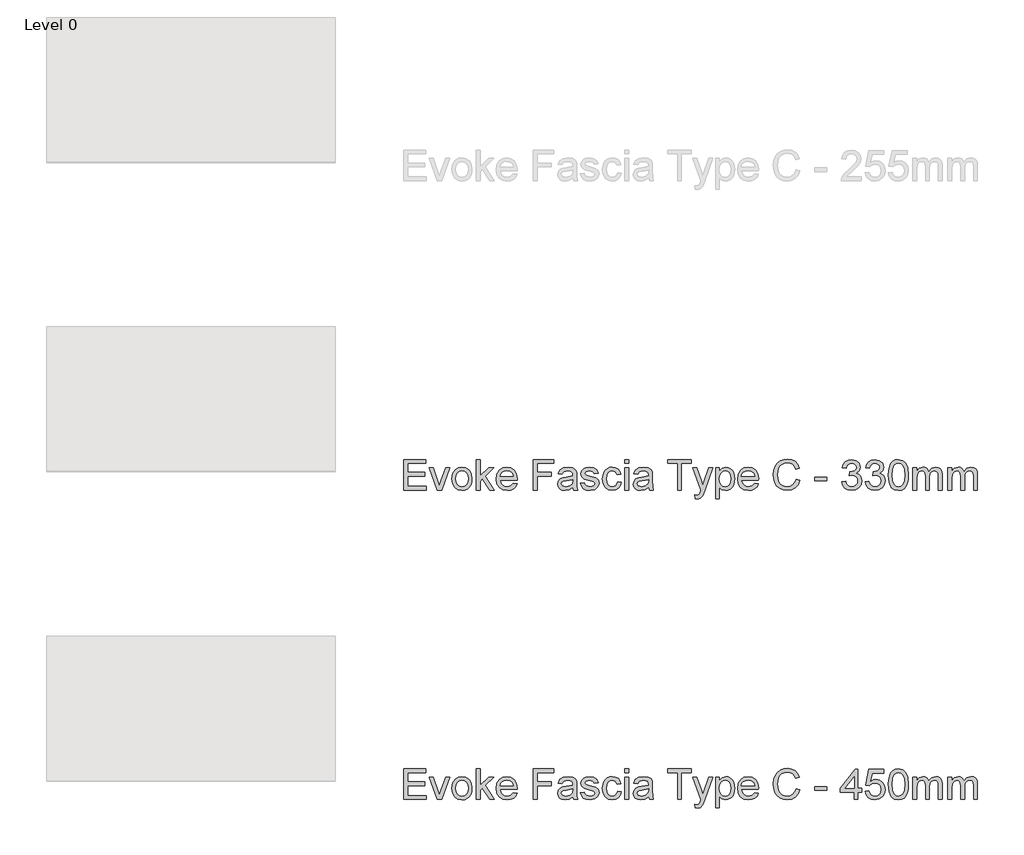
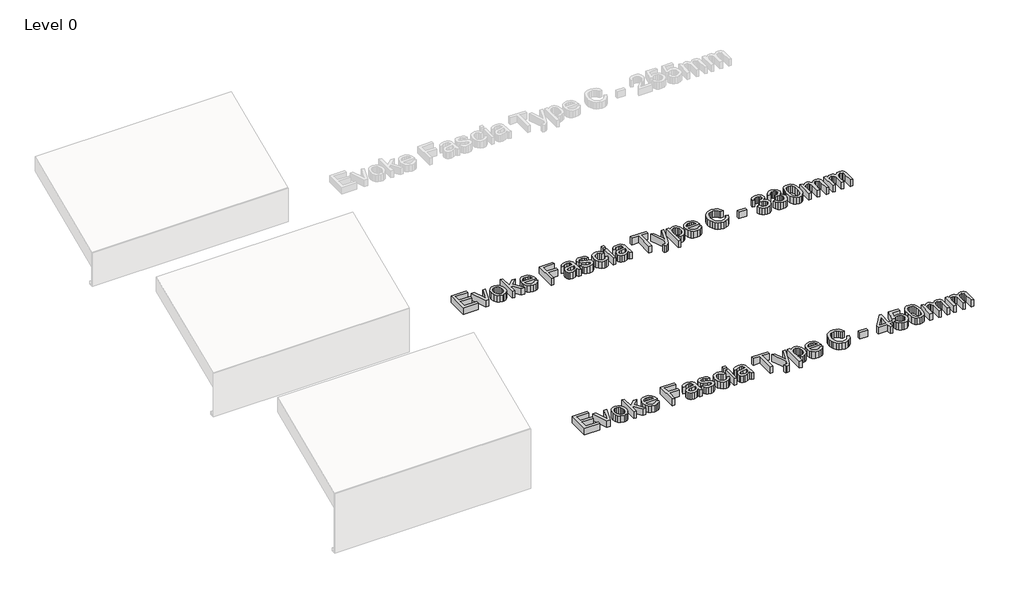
# One storey, part 11 of 13: 2 proxies.
"""IFC4 building model written with IfcOpenShell, lengths in millimetres."""

import ifcopenshell
import ifcopenshell.guid

model = None  # the IFC model being written
_history = None  # IfcOwnerHistory: only IFC2X3 demands one
_inside = {}  # id of a spatial element -> (the spatial element, [elements in it])
_under = {}  # id of a project, library or spatial element -> (it, [spatial elements below it])
_declared = {}  # id of a project -> (the project, [libraries it declares])
_typed = {}  # id of a type object -> (the type object, [elements of that type])
_made_of = {}  # id of a material, layer set ... -> (it, [elements and type objects made of it])


def new_model(schema):
    """Start an empty IFC model of exactly this schema.

    Asked for "IFC4X3", IfcOpenShell would pick the latest addendum, in which some entities
    have other attributes; the version numbers below select the first issue.
    IFC2X3 requires an IfcOwnerHistory on every rooted entity: one is made here for all.
    """
    global model, _history
    if schema == "IFC4X3":
        model = ifcopenshell.file(schema_version=(4, 3, 0, 0))
    else:
        model = ifcopenshell.file(schema=schema)
    _inside.clear()
    _under.clear()
    _declared.clear()
    _typed.clear()
    _made_of.clear()
    _history = None
    if model.schema == "IFC2X3":
        org = make("IfcOrganization", Name="unknown")
        user = make(
            "IfcPersonAndOrganization",
            ThePerson=make("IfcPerson", FamilyName="unknown"),
            TheOrganization=org,
        )
        app = make(
            "IfcApplication",
            ApplicationDeveloper=org,
            Version="unknown",
            ApplicationFullName="unknown",
            ApplicationIdentifier="unknown",
        )
        _history = make(
            "IfcOwnerHistory",
            OwningUser=user,
            OwningApplication=app,
            ChangeAction="ADDED",
            CreationDate=0,
        )
    return model


def make(cls, **values):
    """One entity of the class cls with the attributes given. An attribute that is None is left unset."""
    return model.create_entity(
        cls, **{name: value for name, value in values.items() if value is not None}
    )


def rooted(cls, **values):
    """An entity with a GlobalId (a new one), such as an element, a storey or a relation."""
    return make(cls, GlobalId=ifcopenshell.guid.new(), OwnerHistory=_history, **values)


def si_unit(unit_type, name, prefix=None):
    """IfcSIUnit, for example si_unit("LENGTHUNIT", "METRE", prefix="MILLI")."""
    return make("IfcSIUnit", UnitType=unit_type, Prefix=prefix, Name=name)


def assignment(units):
    """IfcUnitAssignment: the units of a project."""
    return None if units is None else make("IfcUnitAssignment", Units=units)


def point(xyz):
    """IfcCartesianPoint."""
    return None if xyz is None else make("IfcCartesianPoint", Coordinates=xyz)


def direction(xyz):
    """IfcDirection."""
    return None if xyz is None else make("IfcDirection", DirectionRatios=xyz)


def frame(location, z_axis=None, x_axis=None):
    """IfcAxis2Placement3D, a coordinate frame: its origin and axes. An axis left out is left unset."""
    return make(
        "IfcAxis2Placement3D",
        Location=point(location),
        Axis=direction(z_axis),
        RefDirection=direction(x_axis),
    )


def origin():
    """The frame at (0, 0, 0) with its axes left unset."""
    return frame((0.0, 0.0, 0.0))


def origin_with_axes():
    """The frame at (0, 0, 0) with the z axis (0, 0, 1) and the x axis (1, 0, 0) written out."""
    return frame((0.0, 0.0, 0.0), z_axis=(0.0, 0.0, 1.0), x_axis=(1.0, 0.0, 0.0))


def place(relative_to, where):
    """IfcLocalPlacement: puts the frame where relative to a parent placement (None: the world)."""
    return make(
        "IfcLocalPlacement", PlacementRelTo=relative_to, RelativePlacement=where
    )


def context(
    kind, dimensions, precision=None, world=None, true_north=None, identifier=None
):
    """IfcGeometricRepresentationContext, for example the 3D "Model" context."""
    return make(
        "IfcGeometricRepresentationContext",
        ContextIdentifier=identifier,
        ContextType=kind,
        CoordinateSpaceDimension=dimensions,
        Precision=precision,
        WorldCoordinateSystem=world,
        TrueNorth=true_north,
    )


def project(units=None, contexts=None):
    """IfcProject with its units and contexts."""
    return rooted(
        "IfcProject",
        Name="project",
        RepresentationContexts=contexts,
        UnitsInContext=assignment(units),
    )


def spatial(cls, under=None, at=None, **own):
    """A site, building, storey or space (cls), placed at a placement, below another one or the project."""
    s = rooted(cls, ObjectPlacement=at, **own)
    if under is not None:
        _under.setdefault(under.id(), (under, []))[1].append(s)
    return s


def polyline(points):
    """IfcPolyline through the points."""
    return make("IfcPolyline", Points=[point(p) for p in points])


def outline(outer, holes=None, kind="AREA"):
    """IfcArbitraryClosedProfileDef: a profile drawn as a closed curve; with holes, ...WithVoids."""
    if holes is None:
        return make("IfcArbitraryClosedProfileDef", ProfileType=kind, OuterCurve=outer)
    return make(
        "IfcArbitraryProfileDefWithVoids",
        ProfileType=kind,
        OuterCurve=outer,
        InnerCurves=holes,
    )


def extrude(swept, where, along, depth):
    """IfcExtrudedAreaSolid: the profile swept, set in the frame where, extruded along a direction by depth."""
    return make(
        "IfcExtrudedAreaSolid",
        SweptArea=swept,
        Position=where,
        ExtrudedDirection=direction(along),
        Depth=depth,
    )


def shape(context_of_items, identifier, shape_type, items):
    """IfcShapeRepresentation: the items that make up one representation, for example the "Body"."""
    return make(
        "IfcShapeRepresentation",
        ContextOfItems=context_of_items,
        RepresentationIdentifier=identifier,
        RepresentationType=shape_type,
        Items=items,
    )


def made_of(thing, what):
    """Note that an element or type object is made of a material, layer set ...; save() writes the relation."""
    if what is not None:
        _made_of.setdefault(what.id(), (what, []))[1].append(thing)
    return thing


def element(
    cls,
    number,
    at=None,
    inside=None,
    cuts=None,
    type_object=None,
    material=None,
    context=None,
    identifier="Body",
    shape_type=None,
    held_by="IfcProductDefinitionShape",
    body=None,
    shapes=None,
    **own,
):
    """One element of the class cls, such as IfcWall. Its Tag is "e" and its number.

    at: its placement. inside: the storey or other place that contains it. cuts: it is an
    opening in that element (IfcRelVoidsElement). A single representation is given by context,
    identifier, shape_type and body (its items); several are given by shapes. held_by: the class
    of the entity that holds the representations. save() writes the other relations.
    """
    e = rooted(cls, Tag="e%d" % number, ObjectPlacement=at, **own)
    if body is not None:
        shapes = [shape(context, identifier, shape_type, body)]
    if shapes is not None:
        e.Representation = make(held_by, Representations=shapes)
    if inside is not None:
        _inside.setdefault(inside.id(), (inside, []))[1].append(e)
    if cuts is not None:
        rooted(
            "IfcRelVoidsElement", RelatingBuildingElement=cuts, RelatedOpeningElement=e
        )
    if type_object is not None:
        _typed.setdefault(type_object.id(), (type_object, []))[1].append(e)
    return made_of(e, material)


def aggregate(whole, parts):
    """IfcRelAggregates: a whole, such as a stair, and the parts it consists of."""
    return rooted("IfcRelAggregates", RelatingObject=whole, RelatedObjects=parts)


def save(model, path):
    """Write the relations noted so far, then the file.

    IfcRelAggregates (storeys below a building ...), IfcRelContainedInSpatialStructure (elements
    in a storey), IfcRelDefinesByType, IfcRelAssociatesMaterial and IfcRelDeclares: one each for
    every whole, place, type object, material and project.
    """
    for whole, parts in _under.values():
        aggregate(whole, parts)
    for where, things in _inside.values():
        rooted(
            "IfcRelContainedInSpatialStructure",
            RelatedElements=things,
            RelatingStructure=where,
        )
    for kind, things in _typed.values():
        rooted("IfcRelDefinesByType", RelatedObjects=things, RelatingType=kind)
    for what, things in _made_of.values():
        rooted("IfcRelAssociatesMaterial", RelatedObjects=things, RelatingMaterial=what)
    for by, libraries in _declared.values():
        rooted("IfcRelDeclares", RelatingContext=by, RelatedDefinitions=libraries)
    model.write(path)


model = new_model("IFC4")

# Units and contexts
model_context = context("Model", 3, world=origin())
ifc_project = project(units=[si_unit("LENGTHUNIT", "METRE", prefix="MILLI")], contexts=[model_context])

# Site, building, storey
site = spatial("IfcSite", under=ifc_project)
building = spatial("IfcBuilding", under=site)
storey = spatial("IfcBuildingStorey", under=building, Name="Level 0", Elevation=0.0)

# Proxies
placement = place(None, origin())
element("IfcBuildingElementProxy", 1, Name="150mm Arial", ObjectType="150mm Arial", at=placement, inside=storey, context=model_context, shape_type="SweptSolid", body=[
    extrude(outline(polyline([(12568.7201043, 2860.6682311), (12568.7201043, 3008.3605388), (12674.8739504, 3008.3605388), (12674.8739504, 2989.8990003), (12587.1816427, 2989.8990003), (12587.1816427, 2946.0528465), (12670.2585658, 2946.0528465), (12670.2585658, 2927.591308), (12587.1816427, 2927.591308), (12587.1816427, 2879.1297695), (12677.1816427, 2879.1297695), (12677.1816427, 2860.6682311), (12568.7201043, 2860.6682311)])), origin_with_axes(), (0.0, 0.0, 1.0), 50.0),
    extrude(outline(polyline([(12729.176835, 2860.6682311), (12691.0277966, 2969.1297695), (12710.5710658, 2969.1297695), (12733.6840466, 2904.153808), (12740.6431812, 2882.3028465), (12747.458085, 2902.9278465), (12770.7152966, 2969.1297695), (12790.2585658, 2969.1297695), (12752.5782774, 2860.6682311), (12729.176835, 2860.6682311)])), origin_with_axes(), (0.0, 0.0, 1.0), 50.0),
    extrude(outline(polyline([(12801.7970274, 2914.8990003), (12805.7904168, 2941.0498416), (12817.770585, 2959.4302503), (12832.5722677, 2968.435659), (12850.2946235, 2971.4374618), (12869.6891548, 2967.7821133), (12885.1804408, 2956.8160676), (12895.3351884, 2939.4047094), (12898.7201043, 2916.4134234), (12897.22371, 2897.762582), (12892.7345274, 2883.5648657), (12885.3832653, 2872.9323537), (12875.3006331, 2864.9771253), (12863.3249721, 2860.0146854), (12850.2946235, 2858.3605388), (12830.6657173, 2862.0023657), (12815.19246, 2872.9278465), (12805.1458855, 2890.7042888), (12801.7970274, 2914.8990003)]), holes=[polyline([(12820.2585658, 2914.935058), (12822.3949841, 2898.2268248), (12828.8042389, 2886.3232791), (12838.4496716, 2879.1973777), (12850.2946235, 2876.8220772), (12862.0854889, 2879.2108993), (12871.7128927, 2886.3773657), (12878.1221475, 2898.4386638), (12880.2585658, 2915.5119811), (12878.1086259, 2931.7334354), (12871.6588062, 2943.4747215), (12862.0178807, 2950.6006229), (12850.2946235, 2952.9759234), (12838.4496716, 2950.6096373), (12828.8042389, 2943.5107791), (12822.3949841, 2931.6342767), (12820.2585658, 2914.935058)])]), origin_with_axes(), (0.0, 0.0, 1.0), 50.0),
    extrude(outline(polyline([(12919.489335, 2860.6682311), (12919.489335, 3008.3605388), (12937.9508735, 3008.3605388), (12937.9508735, 2928.997558), (12979.3451043, 2969.1297695), (13004.8739504, 2969.1297695), (12962.974912, 2928.4927503), (13007.1816427, 2860.6682311), (12985.6191427, 2860.6682311), (12949.7417389, 2915.6562118), (12937.9508735, 2904.2259234), (12937.9508735, 2860.6682311), (12919.489335, 2860.6682311)])), origin_with_axes(), (0.0, 0.0, 1.0), 50.0),
    extrude(outline(polyline([(13099.2729889, 2892.9759234), (13117.3739504, 2890.6682311), (13110.8520153, 2877.029409), (13100.4448639, 2866.8340965), (13086.3868711, 2860.4789282), (13068.912412, 2858.3605388), (13047.2507533, 2862.0158873), (13030.583085, 2872.981933), (13019.9550802, 2890.5465364), (13016.412412, 2913.997558), (13019.9911379, 2938.2373416), (13030.7273158, 2956.3653465), (13047.1696235, 2967.669433), (13067.8667389, 2971.4374618), (13087.919323, 2967.6784474), (13103.94246, 2956.4014041), (13114.4487701, 2938.309457), (13117.9508735, 2914.1057311), (13117.8427004, 2909.1297695), (13034.8739504, 2909.1297695), (13038.0695634, 2895.310659), (13045.4929408, 2885.1514041), (13056.2065826, 2878.904409), (13069.2729889, 2876.8220772), (13087.3739504, 2880.6802503), (13099.2729889, 2892.9759234)]), holes=[polyline([(13034.8739504, 2927.591308), (13099.489335, 2927.591308), (13096.9923399, 2937.3449138), (13092.0975081, 2944.3220772), (13081.334287, 2950.8124618), (13067.7946235, 2952.9759234), (13055.3502124, 2951.2496614), (13045.0602485, 2946.0708753), (13037.9073038, 2937.9984594), (13034.8739504, 2927.591308)])]), origin_with_axes(), (0.0, 0.0, 1.0), 50.0),
    extrude(outline(polyline([(13196.412412, 2860.6682311), (13196.412412, 3008.3605388), (13295.6431812, 3008.3605388), (13295.6431812, 2989.8990003), (13214.8739504, 2989.8990003), (13214.8739504, 2946.0528465), (13284.1047197, 2946.0528465), (13284.1047197, 2927.591308), (13214.8739504, 2927.591308), (13214.8739504, 2860.6682311), (13196.412412, 2860.6682311)])), origin_with_axes(), (0.0, 0.0, 1.0), 50.0),
    extrude(outline(polyline([(13387.9508735, 2874.5143849), (13370.0482293, 2862.0023657), (13350.270585, 2858.3605388), (13334.8423999, 2860.5510436), (13323.4616908, 2867.122558), (13316.4439624, 2877.1015243), (13314.1047197, 2889.5143849), (13317.6383735, 2904.1177503), (13326.9232293, 2914.7187118), (13339.849912, 2920.7764041), (13355.8234697, 2923.5528465), (13387.8427004, 2929.8990003), (13387.9508735, 2934.0095772), (13386.6798399, 2942.2487599), (13382.8667389, 2947.6393849), (13374.3390947, 2951.6417888), (13362.458085, 2952.9759234), (13343.7802004, 2949.4242407), (13334.8739504, 2936.8220772), (13316.412412, 2939.1297695), (13324.3991908, 2957.1586157), (13340.4809216, 2967.7235195), (13364.8378927, 2971.4374618), (13387.2116908, 2968.1562118), (13399.849912, 2959.9170291), (13405.5109697, 2947.3869811), (13406.412412, 2931.2331349), (13406.412412, 2908.2643849), (13407.349912, 2876.1910676), (13411.0277966, 2860.6682311), (13392.5662581, 2860.6682311), (13387.9508735, 2874.5143849)]), holes=[polyline([(13387.9508735, 2911.4374618), (13358.1672197, 2905.7764041), (13342.2838062, 2902.7836157), (13335.0902966, 2897.9158272), (13332.5662581, 2890.8124618), (13338.0650562, 2880.8244811), (13354.2008735, 2876.8220772), (13372.8787581, 2881.2391445), (13384.9220274, 2891.9302503), (13387.8427004, 2906.2090965), (13387.9508735, 2911.4374618)])]), origin_with_axes(), (0.0, 0.0, 1.0), 50.0),
    extrude(outline(polyline([(13424.8739504, 2892.9759234), (13443.3354889, 2895.2836157), (13446.2471475, 2887.3869811), (13451.881162, 2881.5816926), (13471.4604889, 2876.8220772), (13490.2826043, 2881.185058), (13496.412412, 2891.4254426), (13490.2465466, 2899.7187118), (13471.2441427, 2904.9831349), (13443.443662, 2914.0155868), (13431.3102485, 2924.5624618), (13427.1816427, 2939.4542888), (13430.4989504, 2953.2102984), (13439.5494312, 2963.7211157), (13451.28621, 2969.1838561), (13467.1696235, 2971.4374618), (13489.6335658, 2967.8136638), (13503.912412, 2958.0059715), (13510.2585658, 2941.4374618), (13491.7970274, 2939.1297695), (13484.8559216, 2949.3160676), (13468.6119312, 2952.9759234), (13450.943662, 2949.4783272), (13445.6431812, 2941.3292888), (13447.8427004, 2935.9566926), (13454.7297197, 2931.8821734), (13470.631162, 2927.9518849), (13497.7285177, 2919.2619811), (13510.3126524, 2909.4182311), (13514.8739504, 2893.372558), (13509.5193831, 2875.7042888), (13494.068662, 2862.8857791), (13471.208085, 2858.3605388), (13452.5933014, 2860.5420291), (13439.0085658, 2867.0865003), (13429.9400562, 2877.9218368), (13424.8739504, 2892.9759234)])), origin_with_axes(), (0.0, 0.0, 1.0), 50.0),
    extrude(outline(polyline([(13604.8739504, 2899.8990003), (13623.3354889, 2897.591308), (13618.1882533, 2881.1715364), (13608.5157774, 2868.763183), (13595.2285177, 2860.9611998), (13579.2369312, 2858.3605388), (13559.5990105, 2861.9888441), (13544.2429408, 2872.8737599), (13534.3315826, 2890.5375219), (13531.0277966, 2914.5023657), (13536.6708254, 2945.169433), (13543.7922197, 2956.6673296), (13553.8703447, 2964.8749618), (13565.9271355, 2969.7968368), (13578.9845274, 2971.4374618), (13594.5839865, 2969.1838561), (13607.0554408, 2962.4230388), (13616.0022557, 2951.5155868), (13621.0277966, 2936.8220772), (13602.5662581, 2934.5143849), (13594.0025562, 2948.3425099), (13579.1287581, 2952.9759234), (13567.1981692, 2950.6952743), (13557.7285177, 2943.8533272), (13551.5491307, 2932.0804907), (13549.489335, 2915.0071734), (13551.5040586, 2897.7039883), (13557.5482293, 2885.8905868), (13566.8466067, 2879.0892046), (13578.6239504, 2876.8220772), (13588.1837461, 2878.2373416), (13596.021787, 2882.4831349), (13601.7234096, 2889.6676301), (13604.8739504, 2899.8990003)])), origin_with_axes(), (0.0, 0.0, 1.0), 50.0),
    extrude(outline(polyline([(13639.489335, 2989.8990003), (13639.489335, 3008.3605388), (13657.9508735, 3008.3605388), (13657.9508735, 2989.8990003), (13639.489335, 2989.8990003)])), origin_with_axes(), (0.0, 0.0, 1.0), 50.0),
    extrude(outline(polyline([(13639.489335, 2860.6682311), (13639.489335, 2969.1297695), (13657.9508735, 2969.1297695), (13657.9508735, 2860.6682311), (13639.489335, 2860.6682311)])), origin_with_axes(), (0.0, 0.0, 1.0), 50.0),
    extrude(outline(polyline([(13754.8739504, 2874.5143849), (13736.9713062, 2862.0023657), (13717.193662, 2858.3605388), (13701.7654769, 2860.5510436), (13690.3847677, 2867.122558), (13683.3670394, 2877.1015243), (13681.0277966, 2889.5143849), (13684.5614504, 2904.1177503), (13693.8463062, 2914.7187118), (13706.7729889, 2920.7764041), (13722.7465466, 2923.5528465), (13754.7657774, 2929.8990003), (13754.8739504, 2934.0095772), (13753.6029168, 2942.2487599), (13749.7898158, 2947.6393849), (13741.2621716, 2951.6417888), (13729.381162, 2952.9759234), (13710.7032774, 2949.4242407), (13701.7970274, 2936.8220772), (13683.3354889, 2939.1297695), (13691.3222677, 2957.1586157), (13707.4039985, 2967.7235195), (13731.7609697, 2971.4374618), (13754.1347677, 2968.1562118), (13766.7729889, 2959.9170291), (13772.4340466, 2947.3869811), (13773.3354889, 2931.2331349), (13773.3354889, 2908.2643849), (13774.2729889, 2876.1910676), (13777.9508735, 2860.6682311), (13759.489335, 2860.6682311), (13754.8739504, 2874.5143849)]), holes=[polyline([(13754.8739504, 2911.4374618), (13725.0902966, 2905.7764041), (13709.2068831, 2902.7836157), (13702.0133735, 2897.9158272), (13699.489335, 2890.8124618), (13704.9881331, 2880.8244811), (13721.1239504, 2876.8220772), (13739.801835, 2881.2391445), (13751.8451043, 2891.9302503), (13754.7657774, 2906.2090965), (13754.8739504, 2911.4374618)])]), origin_with_axes(), (0.0, 0.0, 1.0), 50.0),
    extrude(outline(polyline([(13895.6431812, 2860.6682311), (13895.6431812, 2989.8990003), (13847.1816427, 2989.8990003), (13847.1816427, 3008.3605388), (13962.5662581, 3008.3605388), (13962.5662581, 2989.8990003), (13914.1047197, 2989.8990003), (13914.1047197, 2860.6682311), (13895.6431812, 2860.6682311)])), origin_with_axes(), (0.0, 0.0, 1.0), 50.0),
    extrude(outline(polyline([(13981.0277966, 2819.1297695), (13978.7201043, 2836.9062118), (13988.0951043, 2835.2836157), (13996.8571235, 2837.3208753), (14002.2297197, 2842.9999618), (14007.2777966, 2856.5937118), (14008.7201043, 2861.0648657), (13969.489335, 2969.1297695), (13988.9604889, 2969.1297695), (14009.7657774, 2908.9134234), (14017.0133735, 2884.8268849), (14024.2609697, 2906.1009234), (14045.6431812, 2969.1297695), (14064.9701043, 2969.1297695), (14027.2177004, 2858.0720772), (14017.4100081, 2833.9855388), (14006.7008735, 2820.9687118), (13992.3138543, 2816.8220772), (13981.0277966, 2819.1297695)])), origin_with_axes(), (0.0, 0.0, 1.0), 50.0),
    extrude(outline(polyline([(14080.2585658, 2819.1297695), (14080.2585658, 2969.1297695), (14098.7201043, 2969.1297695), (14098.7201043, 2951.028808), (14111.4845274, 2966.3352984), (14128.7201043, 2971.4374618), (14141.2050802, 2969.6526061), (14152.1215466, 2964.2980388), (14161.0097677, 2955.6982791), (14167.4100081, 2944.1778465), (14172.5662581, 2915.7283272), (14171.1104288, 2899.9395652), (14166.7429408, 2885.8184715), (14159.6035177, 2874.0816926), (14149.8318831, 2865.4458753), (14138.451174, 2860.1318729), (14126.4845274, 2858.3605388), (14110.4208254, 2863.1021253), (14098.7201043, 2875.091308), (14098.7201043, 2819.1297695), (14080.2585658, 2819.1297695)]), holes=[polyline([(14098.7201043, 2914.0336157), (14100.716799, 2897.4831349), (14106.7068831, 2885.9086157), (14115.5455249, 2879.0937118), (14126.0878927, 2876.8220772), (14136.8015346, 2879.1748416), (14145.865537, 2886.2331349), (14152.044924, 2898.231332), (14154.1047197, 2915.403808), (14152.0945033, 2931.8641445), (14146.0638543, 2943.6009234), (14137.2387341, 2950.6321734), (14126.8451043, 2952.9759234), (14116.4109096, 2950.4834354), (14107.2477485, 2943.0059715), (14100.8520153, 2930.7779066), (14098.7201043, 2914.0336157)])]), origin_with_axes(), (0.0, 0.0, 1.0), 50.0),
    extrude(outline(polyline([(14269.2729889, 2892.9759234), (14287.3739504, 2890.6682311), (14280.8520153, 2877.029409), (14270.4448639, 2866.8340965), (14256.3868711, 2860.4789282), (14238.912412, 2858.3605388), (14217.2507533, 2862.0158873), (14200.583085, 2872.981933), (14189.9550802, 2890.5465364), (14186.412412, 2913.997558), (14189.9911379, 2938.2373416), (14200.7273158, 2956.3653465), (14217.1696235, 2967.669433), (14237.8667389, 2971.4374618), (14257.919323, 2967.6784474), (14273.94246, 2956.4014041), (14284.4487701, 2938.309457), (14287.9508735, 2914.1057311), (14287.8427004, 2909.1297695), (14204.8739504, 2909.1297695), (14208.0695634, 2895.310659), (14215.4929408, 2885.1514041), (14226.2065826, 2878.904409), (14239.2729889, 2876.8220772), (14257.3739504, 2880.6802503), (14269.2729889, 2892.9759234)]), holes=[polyline([(14204.8739504, 2927.591308), (14269.489335, 2927.591308), (14266.9923399, 2937.3449138), (14262.0975081, 2944.3220772), (14251.334287, 2950.8124618), (14237.7946235, 2952.9759234), (14225.3502124, 2951.2496614), (14215.0602485, 2946.0708753), (14207.9073038, 2937.9984594), (14204.8739504, 2927.591308)])]), origin_with_axes(), (0.0, 0.0, 1.0), 50.0),
    extrude(outline(polyline([(14470.2585658, 2913.1682311), (14488.7201043, 2908.4086157), (14480.2014745, 2886.895695), (14466.833085, 2871.1790484), (14449.2729889, 2861.5651662), (14428.1792389, 2858.3605388), (14406.7654769, 2860.7854186), (14389.7597677, 2868.060058), (14376.724912, 2879.9320532), (14367.22371, 2896.1490003), (14361.4229288, 2915.2145051), (14359.489335, 2935.6321734), (14361.6753326, 2957.1676301), (14368.2333254, 2975.7643849), (14378.8207653, 2990.8319931), (14393.0951043, 3001.7800099), (14410.0241908, 3008.4461758), (14428.5758735, 3010.6682311), (14448.8177605, 3007.7926301), (14465.553037, 2999.1658272), (14478.2588663, 2985.3196734), (14486.412412, 2966.7860195), (14467.9508735, 2962.3869811), (14461.5506331, 2975.8500219), (14452.8066427, 2985.0852984), (14441.6107293, 2990.4263441), (14427.8547197, 2992.2066926), (14411.9983495, 2990.232534), (14398.9725081, 2984.310058), (14389.0881932, 2975.0612599), (14382.6564024, 2963.1081349), (14377.9508735, 2935.6682311), (14383.521787, 2903.8653465), (14390.6431812, 2891.9888441), (14400.865537, 2883.5468368), (14413.1206451, 2878.5032671), (14426.3402966, 2876.8220772), (14441.7504528, 2879.1117407), (14454.5914985, 2885.9807311), (14464.2865105, 2897.356933), (14470.2585658, 2913.1682311)])), origin_with_axes(), (0.0, 0.0, 1.0), 50.0),
    extrude(outline(polyline([(14560.2585658, 2904.5143849), (14560.2585658, 2922.9759234), (14617.9508735, 2922.9759234), (14617.9508735, 2904.5143849), (14560.2585658, 2904.5143849)])), origin_with_axes(), (0.0, 0.0, 1.0), 50.0),
    extrude(outline(polyline([(14691.7970274, 2899.8990003), (14710.2585658, 2902.2066926), (14714.3916788, 2890.6051301), (14720.4448639, 2882.7715965), (14728.7155971, 2878.309457), (14739.5013543, 2876.8220772), (14752.1576043, 2878.8683513), (14761.9292389, 2885.0071734), (14768.1762341, 2894.1658272), (14770.2585658, 2905.2715965), (14768.1942629, 2915.8139642), (14762.0013543, 2924.3641445), (14752.6263543, 2930.0297094), (14741.0157774, 2931.9182311), (14728.0710658, 2929.8990003), (14730.1263543, 2948.3605388), (14733.083085, 2948.1441926), (14754.0326043, 2953.4446734), (14761.0097677, 2960.169433), (14763.3354889, 2969.7427503), (14761.6497918, 2977.7160075), (14756.5927004, 2984.1838561), (14748.8763543, 2988.4702142), (14739.2128927, 2989.8990003), (14729.5314024, 2988.4566926), (14721.6167389, 2984.1297695), (14715.8384937, 2976.9182311), (14712.5662581, 2966.8220772), (14694.1047197, 2969.1297695), (14699.5404168, 2985.7072936), (14709.2128927, 2998.0840965), (14722.4460658, 3005.7914282), (14738.5638543, 3008.3605388), (14760.8294793, 3003.294433), (14776.4064024, 2989.4482791), (14781.7970274, 2970.8244811), (14776.676835, 2953.8052503), (14761.5326043, 2941.5816926), (14773.0890947, 2936.9122215), (14781.6527966, 2928.9615003), (14786.9532774, 2918.1622215), (14788.7201043, 2904.9470772), (14785.1864504, 2886.9542888), (14774.5854889, 2871.9182311), (14758.5848879, 2861.7499618), (14738.8523158, 2858.3605388), (14721.0037581, 2861.2541686), (14706.4725081, 2869.935058), (14696.3673399, 2883.2133032), (14691.7970274, 2899.8990003)])), origin_with_axes(), (0.0, 0.0, 1.0), 50.0),
    extrude(outline(polyline([(14804.8739504, 2899.8990003), (14823.3354889, 2902.2066926), (14827.4686019, 2890.6051301), (14833.521787, 2882.7715965), (14841.7925201, 2878.309457), (14852.5782774, 2876.8220772), (14865.2345274, 2878.8683513), (14875.006162, 2885.0071734), (14881.2531572, 2894.1658272), (14883.3354889, 2905.2715965), (14881.271186, 2915.8139642), (14875.0782774, 2924.3641445), (14865.7032774, 2930.0297094), (14854.0927004, 2931.9182311), (14841.1479889, 2929.8990003), (14843.2032774, 2948.3605388), (14846.1600081, 2948.1441926), (14867.1095274, 2953.4446734), (14874.0866908, 2960.169433), (14876.412412, 2969.7427503), (14874.7267149, 2977.7160075), (14869.6696235, 2984.1838561), (14861.9532774, 2988.4702142), (14852.2898158, 2989.8990003), (14842.6083254, 2988.4566926), (14834.693662, 2984.1297695), (14828.9154168, 2976.9182311), (14825.6431812, 2966.8220772), (14807.1816427, 2969.1297695), (14812.6173399, 2985.7072936), (14822.2898158, 2998.0840965), (14835.5229889, 3005.7914282), (14851.6407774, 3008.3605388), (14873.9064024, 3003.294433), (14889.4833254, 2989.4482791), (14894.8739504, 2970.8244811), (14889.7537581, 2953.8052503), (14874.6095274, 2941.5816926), (14886.1660177, 2936.9122215), (14894.7297197, 2928.9615003), (14900.0302004, 2918.1622215), (14901.7970274, 2904.9470772), (14898.2633735, 2886.9542888), (14887.662412, 2871.9182311), (14871.661811, 2861.7499618), (14851.9292389, 2858.3605388), (14834.0806812, 2861.2541686), (14819.5494312, 2869.935058), (14809.4442629, 2883.2133032), (14804.8739504, 2899.8990003)])), origin_with_axes(), (0.0, 0.0, 1.0), 50.0),
    extrude(outline(polyline([(14917.9508735, 2933.3244811), (14919.3075442, 2956.9648056), (14923.3775562, 2975.8184715), (14930.1203447, 2990.1739402), (14939.4953447, 3000.3196734), (14951.5701644, 3006.3503224), (14966.412412, 3008.3605388), (14987.974912, 3003.6009234), (15002.8667389, 2989.8809715), (15011.520585, 2968.0300099), (15014.8739504, 2933.3244811), (15013.5308014, 2909.8193729), (15009.5013543, 2891.0107791), (15002.7991307, 2876.6417888), (14993.4376524, 2866.4554907), (14981.3357894, 2860.3842767), (14966.412412, 2858.3605388), (14947.2297197, 2861.8761638), (14932.662412, 2872.4230388), (14921.6287581, 2897.4020051), (14917.9508735, 2933.3244811)]), holes=[polyline([(14936.412412, 2933.3605388), (14938.5758735, 2904.3205748), (14945.0662581, 2887.513183), (14954.7297197, 2879.4948537), (14966.412412, 2876.8220772), (14978.0951043, 2879.5038681), (14987.7585658, 2887.5492407), (14994.2489504, 2904.3656469), (14996.412412, 2933.3605388), (14994.3210658, 2961.746957), (14988.0470274, 2978.685058), (14978.4015947, 2987.0955147), (14966.1960658, 2989.8990003), (14954.6395754, 2987.4290484), (14945.3547197, 2980.0191926), (14938.6479889, 2962.0264041), (14936.412412, 2933.3605388)])]), origin_with_axes(), (0.0, 0.0, 1.0), 50.0),
    extrude(outline(polyline([(15035.6431812, 2860.6682311), (15035.6431812, 2969.1297695), (15054.1047197, 2969.1297695), (15054.1047197, 2951.2812118), (15066.7970274, 2965.9026061), (15084.8619312, 2971.4374618), (15095.1293591, 2970.0267046), (15103.3595274, 2965.794433), (15113.5277966, 2949.9831349), (15127.9328447, 2966.0738801), (15146.1239504, 2971.4374618), (15160.0016548, 2969.2063921), (15170.2645754, 2962.513183), (15176.6062221, 2951.177546), (15178.7201043, 2935.0191926), (15178.7201043, 2860.6682311), (15160.2585658, 2860.6682311), (15160.2585658, 2927.0865003), (15158.5458254, 2942.5011638), (15152.3439024, 2950.091308), (15141.7970274, 2952.9759234), (15131.7955249, 2951.1279666), (15123.6419793, 2945.5840965), (15118.2198038, 2935.965707), (15116.412412, 2921.8941926), (15116.412412, 2860.6682311), (15097.9508735, 2860.6682311), (15097.9508735, 2929.1417888), (15093.678037, 2947.0264041), (15088.0395153, 2951.4885436), (15079.6696235, 2952.9759234), (15066.0037581, 2949.0095772), (15056.9172197, 2937.3990003), (15054.1047197, 2915.3677503), (15054.1047197, 2860.6682311), (15035.6431812, 2860.6682311)])), origin_with_axes(), (0.0, 0.0, 1.0), 50.0),
    extrude(outline(polyline([(15206.412412, 2860.6682311), (15206.412412, 2969.1297695), (15224.8739504, 2969.1297695), (15224.8739504, 2951.2812118), (15237.5662581, 2965.9026061), (15255.631162, 2971.4374618), (15265.8985899, 2970.0267046), (15274.1287581, 2965.794433), (15284.2970274, 2949.9831349), (15298.7020754, 2966.0738801), (15316.8931812, 2971.4374618), (15330.7708855, 2969.2063921), (15341.0338062, 2962.513183), (15347.3754528, 2951.177546), (15349.489335, 2935.0191926), (15349.489335, 2860.6682311), (15331.0277966, 2860.6682311), (15331.0277966, 2927.0865003), (15329.3150562, 2942.5011638), (15323.1131331, 2950.091308), (15312.5662581, 2952.9759234), (15302.5647557, 2951.1279666), (15294.41121, 2945.5840965), (15288.9890346, 2935.965707), (15287.1816427, 2921.8941926), (15287.1816427, 2860.6682311), (15268.7201043, 2860.6682311), (15268.7201043, 2929.1417888), (15264.4472677, 2947.0264041), (15258.8087461, 2951.4885436), (15250.4388543, 2952.9759234), (15236.7729889, 2949.0095772), (15227.6864504, 2937.3990003), (15224.8739504, 2915.3677503), (15224.8739504, 2860.6682311), (15206.412412, 2860.6682311)])), origin_with_axes(), (0.0, 0.0, 1.0), 50.0),
])
element("IfcBuildingElementProxy", 2, Name="150mm Arial", ObjectType="150mm Arial", at=placement, inside=storey, context=model_context, shape_type="SweptSolid", body=[
    extrude(outline(polyline([(12568.7201043, 1360.6682311), (12568.7201043, 1508.3605388), (12674.8739504, 1508.3605388), (12674.8739504, 1489.8990003), (12587.1816427, 1489.8990003), (12587.1816427, 1446.0528465), (12670.2585658, 1446.0528465), (12670.2585658, 1427.591308), (12587.1816427, 1427.591308), (12587.1816427, 1379.1297695), (12677.1816427, 1379.1297695), (12677.1816427, 1360.6682311), (12568.7201043, 1360.6682311)])), origin_with_axes(), (0.0, 0.0, 1.0), 50.0),
    extrude(outline(polyline([(12729.176835, 1360.6682311), (12691.0277966, 1469.1297695), (12710.5710658, 1469.1297695), (12733.6840466, 1404.153808), (12740.6431812, 1382.3028465), (12747.458085, 1402.9278465), (12770.7152966, 1469.1297695), (12790.2585658, 1469.1297695), (12752.5782774, 1360.6682311), (12729.176835, 1360.6682311)])), origin_with_axes(), (0.0, 0.0, 1.0), 50.0),
    extrude(outline(polyline([(12801.7970274, 1414.8990003), (12805.7904168, 1441.0498416), (12817.770585, 1459.4302503), (12832.5722677, 1468.435659), (12850.2946235, 1471.4374618), (12869.6891548, 1467.7821133), (12885.1804408, 1456.8160676), (12895.3351884, 1439.4047094), (12898.7201043, 1416.4134234), (12897.22371, 1397.762582), (12892.7345274, 1383.5648657), (12885.3832653, 1372.9323537), (12875.3006331, 1364.9771253), (12863.3249721, 1360.0146854), (12850.2946235, 1358.3605388), (12830.6657173, 1362.0023657), (12815.19246, 1372.9278465), (12805.1458855, 1390.7042888), (12801.7970274, 1414.8990003)]), holes=[polyline([(12820.2585658, 1414.935058), (12822.3949841, 1398.2268248), (12828.8042389, 1386.3232791), (12838.4496716, 1379.1973777), (12850.2946235, 1376.8220772), (12862.0854889, 1379.2108993), (12871.7128927, 1386.3773657), (12878.1221475, 1398.4386638), (12880.2585658, 1415.5119811), (12878.1086259, 1431.7334354), (12871.6588062, 1443.4747215), (12862.0178807, 1450.6006229), (12850.2946235, 1452.9759234), (12838.4496716, 1450.6096373), (12828.8042389, 1443.5107791), (12822.3949841, 1431.6342767), (12820.2585658, 1414.935058)])]), origin_with_axes(), (0.0, 0.0, 1.0), 50.0),
    extrude(outline(polyline([(12919.489335, 1360.6682311), (12919.489335, 1508.3605388), (12937.9508735, 1508.3605388), (12937.9508735, 1428.997558), (12979.3451043, 1469.1297695), (13004.8739504, 1469.1297695), (12962.974912, 1428.4927503), (13007.1816427, 1360.6682311), (12985.6191427, 1360.6682311), (12949.7417389, 1415.6562118), (12937.9508735, 1404.2259234), (12937.9508735, 1360.6682311), (12919.489335, 1360.6682311)])), origin_with_axes(), (0.0, 0.0, 1.0), 50.0),
    extrude(outline(polyline([(13099.2729889, 1392.9759234), (13117.3739504, 1390.6682311), (13110.8520153, 1377.029409), (13100.4448639, 1366.8340965), (13086.3868711, 1360.4789282), (13068.912412, 1358.3605388), (13047.2507533, 1362.0158873), (13030.583085, 1372.981933), (13019.9550802, 1390.5465364), (13016.412412, 1413.997558), (13019.9911379, 1438.2373416), (13030.7273158, 1456.3653465), (13047.1696235, 1467.669433), (13067.8667389, 1471.4374618), (13087.919323, 1467.6784474), (13103.94246, 1456.4014041), (13114.4487701, 1438.309457), (13117.9508735, 1414.1057311), (13117.8427004, 1409.1297695), (13034.8739504, 1409.1297695), (13038.0695634, 1395.310659), (13045.4929408, 1385.1514041), (13056.2065826, 1378.904409), (13069.2729889, 1376.8220772), (13087.3739504, 1380.6802503), (13099.2729889, 1392.9759234)]), holes=[polyline([(13034.8739504, 1427.591308), (13099.489335, 1427.591308), (13096.9923399, 1437.3449138), (13092.0975081, 1444.3220772), (13081.334287, 1450.8124618), (13067.7946235, 1452.9759234), (13055.3502124, 1451.2496614), (13045.0602485, 1446.0708753), (13037.9073038, 1437.9984594), (13034.8739504, 1427.591308)])]), origin_with_axes(), (0.0, 0.0, 1.0), 50.0),
    extrude(outline(polyline([(13196.412412, 1360.6682311), (13196.412412, 1508.3605388), (13295.6431812, 1508.3605388), (13295.6431812, 1489.8990003), (13214.8739504, 1489.8990003), (13214.8739504, 1446.0528465), (13284.1047197, 1446.0528465), (13284.1047197, 1427.591308), (13214.8739504, 1427.591308), (13214.8739504, 1360.6682311), (13196.412412, 1360.6682311)])), origin_with_axes(), (0.0, 0.0, 1.0), 50.0),
    extrude(outline(polyline([(13387.9508735, 1374.5143849), (13370.0482293, 1362.0023657), (13350.270585, 1358.3605388), (13334.8423999, 1360.5510436), (13323.4616908, 1367.122558), (13316.4439624, 1377.1015243), (13314.1047197, 1389.5143849), (13317.6383735, 1404.1177503), (13326.9232293, 1414.7187118), (13339.849912, 1420.7764041), (13355.8234697, 1423.5528465), (13387.8427004, 1429.8990003), (13387.9508735, 1434.0095772), (13386.6798399, 1442.2487599), (13382.8667389, 1447.6393849), (13374.3390947, 1451.6417888), (13362.458085, 1452.9759234), (13343.7802004, 1449.4242407), (13334.8739504, 1436.8220772), (13316.412412, 1439.1297695), (13324.3991908, 1457.1586157), (13340.4809216, 1467.7235195), (13364.8378927, 1471.4374618), (13387.2116908, 1468.1562118), (13399.849912, 1459.9170291), (13405.5109697, 1447.3869811), (13406.412412, 1431.2331349), (13406.412412, 1408.2643849), (13407.349912, 1376.1910676), (13411.0277966, 1360.6682311), (13392.5662581, 1360.6682311), (13387.9508735, 1374.5143849)]), holes=[polyline([(13387.9508735, 1411.4374618), (13358.1672197, 1405.7764041), (13342.2838062, 1402.7836157), (13335.0902966, 1397.9158272), (13332.5662581, 1390.8124618), (13338.0650562, 1380.8244811), (13354.2008735, 1376.8220772), (13372.8787581, 1381.2391445), (13384.9220274, 1391.9302503), (13387.8427004, 1406.2090965), (13387.9508735, 1411.4374618)])]), origin_with_axes(), (0.0, 0.0, 1.0), 50.0),
    extrude(outline(polyline([(13424.8739504, 1392.9759234), (13443.3354889, 1395.2836157), (13446.2471475, 1387.3869811), (13451.881162, 1381.5816926), (13471.4604889, 1376.8220772), (13490.2826043, 1381.185058), (13496.412412, 1391.4254426), (13490.2465466, 1399.7187118), (13471.2441427, 1404.9831349), (13443.443662, 1414.0155868), (13431.3102485, 1424.5624618), (13427.1816427, 1439.4542888), (13430.4989504, 1453.2102984), (13439.5494312, 1463.7211157), (13451.28621, 1469.1838561), (13467.1696235, 1471.4374618), (13489.6335658, 1467.8136638), (13503.912412, 1458.0059715), (13510.2585658, 1441.4374618), (13491.7970274, 1439.1297695), (13484.8559216, 1449.3160676), (13468.6119312, 1452.9759234), (13450.943662, 1449.4783272), (13445.6431812, 1441.3292888), (13447.8427004, 1435.9566926), (13454.7297197, 1431.8821734), (13470.631162, 1427.9518849), (13497.7285177, 1419.2619811), (13510.3126524, 1409.4182311), (13514.8739504, 1393.372558), (13509.5193831, 1375.7042888), (13494.068662, 1362.8857791), (13471.208085, 1358.3605388), (13452.5933014, 1360.5420291), (13439.0085658, 1367.0865003), (13429.9400562, 1377.9218368), (13424.8739504, 1392.9759234)])), origin_with_axes(), (0.0, 0.0, 1.0), 50.0),
    extrude(outline(polyline([(13604.8739504, 1399.8990003), (13623.3354889, 1397.591308), (13618.1882533, 1381.1715364), (13608.5157774, 1368.763183), (13595.2285177, 1360.9611998), (13579.2369312, 1358.3605388), (13559.5990105, 1361.9888441), (13544.2429408, 1372.8737599), (13534.3315826, 1390.5375219), (13531.0277966, 1414.5023657), (13536.6708254, 1445.169433), (13543.7922197, 1456.6673296), (13553.8703447, 1464.8749618), (13565.9271355, 1469.7968368), (13578.9845274, 1471.4374618), (13594.5839865, 1469.1838561), (13607.0554408, 1462.4230388), (13616.0022557, 1451.5155868), (13621.0277966, 1436.8220772), (13602.5662581, 1434.5143849), (13594.0025562, 1448.3425099), (13579.1287581, 1452.9759234), (13567.1981692, 1450.6952743), (13557.7285177, 1443.8533272), (13551.5491307, 1432.0804907), (13549.489335, 1415.0071734), (13551.5040586, 1397.7039883), (13557.5482293, 1385.8905868), (13566.8466067, 1379.0892046), (13578.6239504, 1376.8220772), (13588.1837461, 1378.2373416), (13596.021787, 1382.4831349), (13601.7234096, 1389.6676301), (13604.8739504, 1399.8990003)])), origin_with_axes(), (0.0, 0.0, 1.0), 50.0),
    extrude(outline(polyline([(13639.489335, 1489.8990003), (13639.489335, 1508.3605388), (13657.9508735, 1508.3605388), (13657.9508735, 1489.8990003), (13639.489335, 1489.8990003)])), origin_with_axes(), (0.0, 0.0, 1.0), 50.0),
    extrude(outline(polyline([(13639.489335, 1360.6682311), (13639.489335, 1469.1297695), (13657.9508735, 1469.1297695), (13657.9508735, 1360.6682311), (13639.489335, 1360.6682311)])), origin_with_axes(), (0.0, 0.0, 1.0), 50.0),
    extrude(outline(polyline([(13754.8739504, 1374.5143849), (13736.9713062, 1362.0023657), (13717.193662, 1358.3605388), (13701.7654769, 1360.5510436), (13690.3847677, 1367.122558), (13683.3670394, 1377.1015243), (13681.0277966, 1389.5143849), (13684.5614504, 1404.1177503), (13693.8463062, 1414.7187118), (13706.7729889, 1420.7764041), (13722.7465466, 1423.5528465), (13754.7657774, 1429.8990003), (13754.8739504, 1434.0095772), (13753.6029168, 1442.2487599), (13749.7898158, 1447.6393849), (13741.2621716, 1451.6417888), (13729.381162, 1452.9759234), (13710.7032774, 1449.4242407), (13701.7970274, 1436.8220772), (13683.3354889, 1439.1297695), (13691.3222677, 1457.1586157), (13707.4039985, 1467.7235195), (13731.7609697, 1471.4374618), (13754.1347677, 1468.1562118), (13766.7729889, 1459.9170291), (13772.4340466, 1447.3869811), (13773.3354889, 1431.2331349), (13773.3354889, 1408.2643849), (13774.2729889, 1376.1910676), (13777.9508735, 1360.6682311), (13759.489335, 1360.6682311), (13754.8739504, 1374.5143849)]), holes=[polyline([(13754.8739504, 1411.4374618), (13725.0902966, 1405.7764041), (13709.2068831, 1402.7836157), (13702.0133735, 1397.9158272), (13699.489335, 1390.8124618), (13704.9881331, 1380.8244811), (13721.1239504, 1376.8220772), (13739.801835, 1381.2391445), (13751.8451043, 1391.9302503), (13754.7657774, 1406.2090965), (13754.8739504, 1411.4374618)])]), origin_with_axes(), (0.0, 0.0, 1.0), 50.0),
    extrude(outline(polyline([(13895.6431812, 1360.6682311), (13895.6431812, 1489.8990003), (13847.1816427, 1489.8990003), (13847.1816427, 1508.3605388), (13962.5662581, 1508.3605388), (13962.5662581, 1489.8990003), (13914.1047197, 1489.8990003), (13914.1047197, 1360.6682311), (13895.6431812, 1360.6682311)])), origin_with_axes(), (0.0, 0.0, 1.0), 50.0),
    extrude(outline(polyline([(13981.0277966, 1319.1297695), (13978.7201043, 1336.9062118), (13988.0951043, 1335.2836157), (13996.8571235, 1337.3208753), (14002.2297197, 1342.9999618), (14007.2777966, 1356.5937118), (14008.7201043, 1361.0648657), (13969.489335, 1469.1297695), (13988.9604889, 1469.1297695), (14009.7657774, 1408.9134234), (14017.0133735, 1384.8268849), (14024.2609697, 1406.1009234), (14045.6431812, 1469.1297695), (14064.9701043, 1469.1297695), (14027.2177004, 1358.0720772), (14017.4100081, 1333.9855388), (14006.7008735, 1320.9687118), (13992.3138543, 1316.8220772), (13981.0277966, 1319.1297695)])), origin_with_axes(), (0.0, 0.0, 1.0), 50.0),
    extrude(outline(polyline([(14080.2585658, 1319.1297695), (14080.2585658, 1469.1297695), (14098.7201043, 1469.1297695), (14098.7201043, 1451.028808), (14111.4845274, 1466.3352984), (14128.7201043, 1471.4374618), (14141.2050802, 1469.6526061), (14152.1215466, 1464.2980388), (14161.0097677, 1455.6982791), (14167.4100081, 1444.1778465), (14172.5662581, 1415.7283272), (14171.1104288, 1399.9395652), (14166.7429408, 1385.8184715), (14159.6035177, 1374.0816926), (14149.8318831, 1365.4458753), (14138.451174, 1360.1318729), (14126.4845274, 1358.3605388), (14110.4208254, 1363.1021253), (14098.7201043, 1375.091308), (14098.7201043, 1319.1297695), (14080.2585658, 1319.1297695)]), holes=[polyline([(14098.7201043, 1414.0336157), (14100.716799, 1397.4831349), (14106.7068831, 1385.9086157), (14115.5455249, 1379.0937118), (14126.0878927, 1376.8220772), (14136.8015346, 1379.1748416), (14145.865537, 1386.2331349), (14152.044924, 1398.231332), (14154.1047197, 1415.403808), (14152.0945033, 1431.8641445), (14146.0638543, 1443.6009234), (14137.2387341, 1450.6321734), (14126.8451043, 1452.9759234), (14116.4109096, 1450.4834354), (14107.2477485, 1443.0059715), (14100.8520153, 1430.7779066), (14098.7201043, 1414.0336157)])]), origin_with_axes(), (0.0, 0.0, 1.0), 50.0),
    extrude(outline(polyline([(14269.2729889, 1392.9759234), (14287.3739504, 1390.6682311), (14280.8520153, 1377.029409), (14270.4448639, 1366.8340965), (14256.3868711, 1360.4789282), (14238.912412, 1358.3605388), (14217.2507533, 1362.0158873), (14200.583085, 1372.981933), (14189.9550802, 1390.5465364), (14186.412412, 1413.997558), (14189.9911379, 1438.2373416), (14200.7273158, 1456.3653465), (14217.1696235, 1467.669433), (14237.8667389, 1471.4374618), (14257.919323, 1467.6784474), (14273.94246, 1456.4014041), (14284.4487701, 1438.309457), (14287.9508735, 1414.1057311), (14287.8427004, 1409.1297695), (14204.8739504, 1409.1297695), (14208.0695634, 1395.310659), (14215.4929408, 1385.1514041), (14226.2065826, 1378.904409), (14239.2729889, 1376.8220772), (14257.3739504, 1380.6802503), (14269.2729889, 1392.9759234)]), holes=[polyline([(14204.8739504, 1427.591308), (14269.489335, 1427.591308), (14266.9923399, 1437.3449138), (14262.0975081, 1444.3220772), (14251.334287, 1450.8124618), (14237.7946235, 1452.9759234), (14225.3502124, 1451.2496614), (14215.0602485, 1446.0708753), (14207.9073038, 1437.9984594), (14204.8739504, 1427.591308)])]), origin_with_axes(), (0.0, 0.0, 1.0), 50.0),
    extrude(outline(polyline([(14470.2585658, 1413.1682311), (14488.7201043, 1408.4086157), (14480.2014745, 1386.895695), (14466.833085, 1371.1790484), (14449.2729889, 1361.5651662), (14428.1792389, 1358.3605388), (14406.7654769, 1360.7854186), (14389.7597677, 1368.060058), (14376.724912, 1379.9320532), (14367.22371, 1396.1490003), (14361.4229288, 1415.2145051), (14359.489335, 1435.6321734), (14361.6753326, 1457.1676301), (14368.2333254, 1475.7643849), (14378.8207653, 1490.8319931), (14393.0951043, 1501.7800099), (14410.0241908, 1508.4461758), (14428.5758735, 1510.6682311), (14448.8177605, 1507.7926301), (14465.553037, 1499.1658272), (14478.2588663, 1485.3196734), (14486.412412, 1466.7860195), (14467.9508735, 1462.3869811), (14461.5506331, 1475.8500219), (14452.8066427, 1485.0852984), (14441.6107293, 1490.4263441), (14427.8547197, 1492.2066926), (14411.9983495, 1490.232534), (14398.9725081, 1484.310058), (14389.0881932, 1475.0612599), (14382.6564024, 1463.1081349), (14377.9508735, 1435.6682311), (14383.521787, 1403.8653465), (14390.6431812, 1391.9888441), (14400.865537, 1383.5468368), (14413.1206451, 1378.5032671), (14426.3402966, 1376.8220772), (14441.7504528, 1379.1117407), (14454.5914985, 1385.9807311), (14464.2865105, 1397.356933), (14470.2585658, 1413.1682311)])), origin_with_axes(), (0.0, 0.0, 1.0), 50.0),
    extrude(outline(polyline([(14560.2585658, 1404.5143849), (14560.2585658, 1422.9759234), (14617.9508735, 1422.9759234), (14617.9508735, 1404.5143849), (14560.2585658, 1404.5143849)])), origin_with_axes(), (0.0, 0.0, 1.0), 50.0),
    extrude(outline(polyline([(14751.7970274, 1360.6682311), (14751.7970274, 1395.2836157), (14684.8739504, 1395.2836157), (14684.8739504, 1413.7451541), (14756.412412, 1506.0528465), (14770.2585658, 1506.0528465), (14770.2585658, 1413.7451541), (14788.7201043, 1413.7451541), (14788.7201043, 1395.2836157), (14770.2585658, 1395.2836157), (14770.2585658, 1360.6682311), (14751.7970274, 1360.6682311)]), holes=[polyline([(14751.7970274, 1413.7451541), (14751.7970274, 1470.7884234), (14707.5902966, 1413.7451541), (14751.7970274, 1413.7451541)])]), origin_with_axes(), (0.0, 0.0, 1.0), 50.0),
    extrude(outline(polyline([(14804.8739504, 1399.8990003), (14823.3354889, 1402.2066926), (14826.724912, 1391.1234594), (14832.6383735, 1383.1862599), (14841.0488302, 1378.4131229), (14851.9292389, 1376.8220772), (14865.162412, 1379.0351181), (14875.0782774, 1385.6742407), (14881.271186, 1395.9732191), (14883.3354889, 1409.1658272), (14881.4018951, 1421.5877022), (14875.6011139, 1431.0889041), (14865.888073, 1437.1195532), (14852.2177004, 1439.1297695), (14836.0097677, 1435.9206349), (14825.6431812, 1427.591308), (14807.1816427, 1429.8990003), (14823.3354889, 1506.0528465), (14894.8739504, 1506.0528465), (14894.8739504, 1487.591308), (14838.2633735, 1487.591308), (14830.3667389, 1446.9182311), (14843.5548399, 1454.9230388), (14857.3739504, 1457.591308), (14874.623049, 1454.2830147), (14888.94246, 1444.3581349), (14898.5833855, 1429.231933), (14901.7970274, 1410.3196734), (14898.9033975, 1391.8581349), (14890.2225081, 1376.0648657), (14873.599912, 1362.7866205), (14851.8571235, 1358.3605388), (14833.7246115, 1361.2045892), (14819.2789985, 1369.7367407), (14809.3766548, 1382.9654066), (14804.8739504, 1399.8990003)])), origin_with_axes(), (0.0, 0.0, 1.0), 50.0),
    extrude(outline(polyline([(14917.9508735, 1433.3244811), (14919.3075442, 1456.9648056), (14923.3775562, 1475.8184715), (14930.1203447, 1490.1739402), (14939.4953447, 1500.3196734), (14951.5701644, 1506.3503224), (14966.412412, 1508.3605388), (14987.974912, 1503.6009234), (15002.8667389, 1489.8809715), (15011.520585, 1468.0300099), (15014.8739504, 1433.3244811), (15013.5308014, 1409.8193729), (15009.5013543, 1391.0107791), (15002.7991307, 1376.6417888), (14993.4376524, 1366.4554907), (14981.3357894, 1360.3842767), (14966.412412, 1358.3605388), (14947.2297197, 1361.8761638), (14932.662412, 1372.4230388), (14921.6287581, 1397.4020051), (14917.9508735, 1433.3244811)]), holes=[polyline([(14936.412412, 1433.3605388), (14938.5758735, 1404.3205748), (14945.0662581, 1387.513183), (14954.7297197, 1379.4948537), (14966.412412, 1376.8220772), (14978.0951043, 1379.5038681), (14987.7585658, 1387.5492407), (14994.2489504, 1404.3656469), (14996.412412, 1433.3605388), (14994.3210658, 1461.746957), (14988.0470274, 1478.685058), (14978.4015947, 1487.0955147), (14966.1960658, 1489.8990003), (14954.6395754, 1487.4290484), (14945.3547197, 1480.0191926), (14938.6479889, 1462.0264041), (14936.412412, 1433.3605388)])]), origin_with_axes(), (0.0, 0.0, 1.0), 50.0),
    extrude(outline(polyline([(15035.6431812, 1360.6682311), (15035.6431812, 1469.1297695), (15054.1047197, 1469.1297695), (15054.1047197, 1451.2812118), (15066.7970274, 1465.9026061), (15084.8619312, 1471.4374618), (15095.1293591, 1470.0267046), (15103.3595274, 1465.794433), (15113.5277966, 1449.9831349), (15127.9328447, 1466.0738801), (15146.1239504, 1471.4374618), (15160.0016548, 1469.2063921), (15170.2645754, 1462.513183), (15176.6062221, 1451.177546), (15178.7201043, 1435.0191926), (15178.7201043, 1360.6682311), (15160.2585658, 1360.6682311), (15160.2585658, 1427.0865003), (15158.5458254, 1442.5011638), (15152.3439024, 1450.091308), (15141.7970274, 1452.9759234), (15131.7955249, 1451.1279666), (15123.6419793, 1445.5840965), (15118.2198038, 1435.965707), (15116.412412, 1421.8941926), (15116.412412, 1360.6682311), (15097.9508735, 1360.6682311), (15097.9508735, 1429.1417888), (15093.678037, 1447.0264041), (15088.0395153, 1451.4885436), (15079.6696235, 1452.9759234), (15066.0037581, 1449.0095772), (15056.9172197, 1437.3990003), (15054.1047197, 1415.3677503), (15054.1047197, 1360.6682311), (15035.6431812, 1360.6682311)])), origin_with_axes(), (0.0, 0.0, 1.0), 50.0),
    extrude(outline(polyline([(15206.412412, 1360.6682311), (15206.412412, 1469.1297695), (15224.8739504, 1469.1297695), (15224.8739504, 1451.2812118), (15237.5662581, 1465.9026061), (15255.631162, 1471.4374618), (15265.8985899, 1470.0267046), (15274.1287581, 1465.794433), (15284.2970274, 1449.9831349), (15298.7020754, 1466.0738801), (15316.8931812, 1471.4374618), (15330.7708855, 1469.2063921), (15341.0338062, 1462.513183), (15347.3754528, 1451.177546), (15349.489335, 1435.0191926), (15349.489335, 1360.6682311), (15331.0277966, 1360.6682311), (15331.0277966, 1427.0865003), (15329.3150562, 1442.5011638), (15323.1131331, 1450.091308), (15312.5662581, 1452.9759234), (15302.5647557, 1451.1279666), (15294.41121, 1445.5840965), (15288.9890346, 1435.965707), (15287.1816427, 1421.8941926), (15287.1816427, 1360.6682311), (15268.7201043, 1360.6682311), (15268.7201043, 1429.1417888), (15264.4472677, 1447.0264041), (15258.8087461, 1451.4885436), (15250.4388543, 1452.9759234), (15236.7729889, 1449.0095772), (15227.6864504, 1437.3990003), (15224.8739504, 1415.3677503), (15224.8739504, 1360.6682311), (15206.412412, 1360.6682311)])), origin_with_axes(), (0.0, 0.0, 1.0), 50.0),
])

save(model, "model.ifc")
